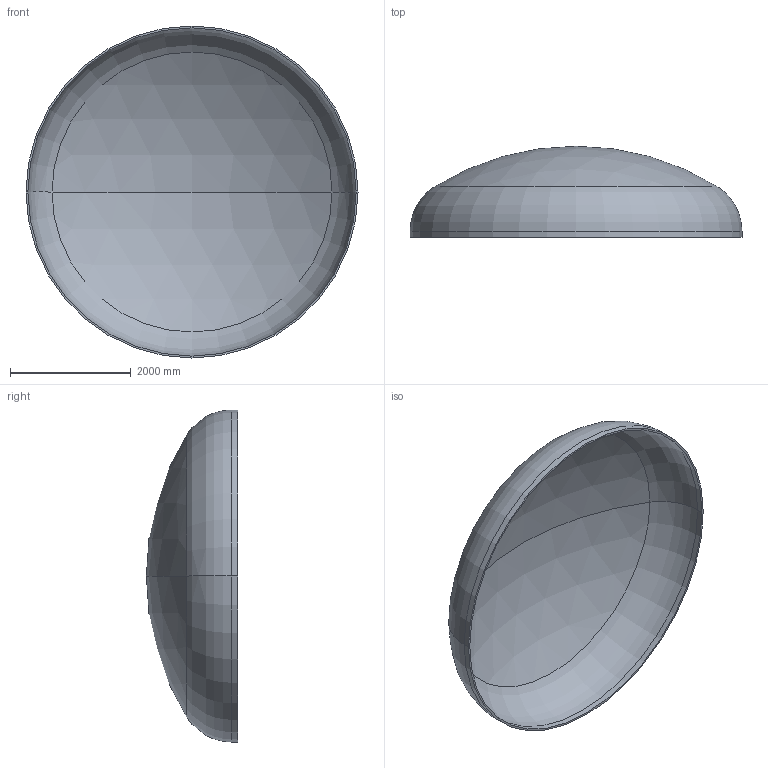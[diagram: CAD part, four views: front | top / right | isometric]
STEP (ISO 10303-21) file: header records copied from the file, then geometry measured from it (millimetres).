
FILE_DESCRIPTION (( 'STEP AP203' ), '1' );
FILE_NAME ('DIN 28013 Korbbogenform_-_Boden DIN 28013 - 5500 x 100 - I - s=31.step', '2016-07-04T10:33:54', ( '' ), ( '' ), 'SwSTEP 2.0', 'SolidWorks 2013', '' );
FILE_SCHEMA (( 'CONFIG_CONTROL_DESIGN' ));
Length unit declared in the file: millimetre
Products named in the file (1): DIN 28013 Korbbogenform_-_Boden DIN 28013 - 5500 x 100 - I - s=31
Bounding box: 5500 x 1510.05 x 5500 mm (x, y, z)
Volume: 1065302182.2 mm3; surface area: 69263781.3 mm2
Topology: 1 solids, 1 shells, 13 faces, 24 edges, 14 vertices
Faces by surface type: torus 4, cylinder 4, sphere 4, plane 1
Entity records: 407 total; most frequent: DIRECTION 72, CARTESIAN_POINT 52, ORIENTED_EDGE 48, AXIS2_PLACEMENT_3D 34, EDGE_CURVE 24, CIRCLE 20, EDGE_LOOP 14, VERTEX_POINT 14
